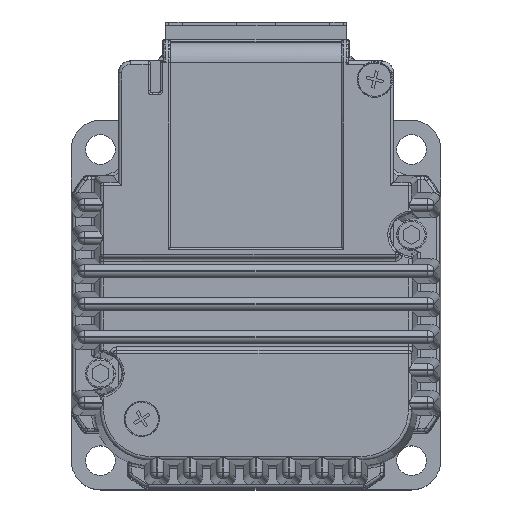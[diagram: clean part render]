
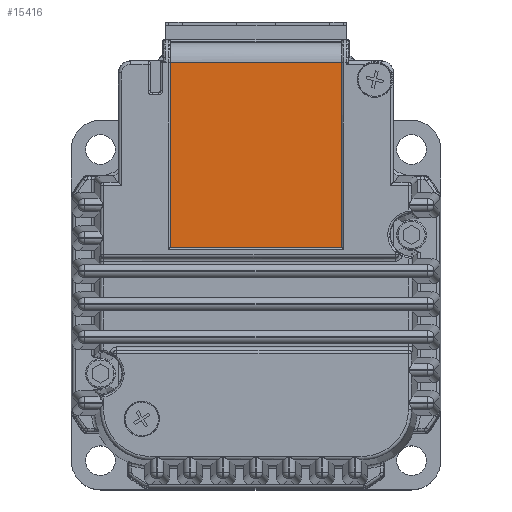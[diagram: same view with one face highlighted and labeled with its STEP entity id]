
A CAD part, top view. The second image highlights one B-rep face of the part: STEP entity #15416.
In plain terms, the highlighted planar face has unit normal (0, 0, 1).
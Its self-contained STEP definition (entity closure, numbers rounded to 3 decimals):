
#607 = LINE ( 'NONE', #28562, #13679 ) ;
#2354 = EDGE_CURVE ( 'NONE', #23744, #41161, #24549, .T. ) ;
#4099 = VECTOR ( 'NONE', #36867, 1000. ) ;
#4586 = EDGE_CURVE ( 'NONE', #34392, #41161, #50933, .T. ) ;
#5066 = DIRECTION ( 'NONE',  ( 0., -1., 0. ) ) ;
#6710 = CARTESIAN_POINT ( 'NONE',  ( 92., 44., 56.4 ) ) ;
#9473 = DIRECTION ( 'NONE',  ( -1., 0., 0. ) ) ;
#12537 = CARTESIAN_POINT ( 'NONE',  ( 66., 15.552, 56.4 ) ) ;
#12581 = CARTESIAN_POINT ( 'NONE',  ( 132.253, 44., 56.4 ) ) ;
#13679 = VECTOR ( 'NONE', #5066, 1000. ) ;
#15416 = ADVANCED_FACE ( 'NONE', ( #45324 ), #36645, .F. ) ;
#17575 = ORIENTED_EDGE ( 'NONE', *, *, #42537, .T. ) ;
#21242 = VERTEX_POINT ( 'NONE', #46439 ) ;
#21852 = CARTESIAN_POINT ( 'NONE',  ( 66., 15.552, 56.4 ) ) ;
#22903 = CARTESIAN_POINT ( 'NONE',  ( 132.253, 43.552, 56.4 ) ) ;
#23154 = LINE ( 'NONE', #22903, #25610 ) ;
#23237 = EDGE_LOOP ( 'NONE', ( #51292, #17575, #23715, #49180 ) ) ;
#23715 = ORIENTED_EDGE ( 'NONE', *, *, #39054, .T. ) ;
#23744 = VERTEX_POINT ( 'NONE', #21852 ) ;
#24549 = LINE ( 'NONE', #12537, #4099 ) ;
#25152 = AXIS2_PLACEMENT_3D ( 'NONE', #12581, #41387, #9473 ) ;
#25610 = VECTOR ( 'NONE', #30749, 1000. ) ;
#28562 = CARTESIAN_POINT ( 'NONE',  ( 66., 44., 56.4 ) ) ;
#30190 = VECTOR ( 'NONE', #42529, 1000. ) ;
#30749 = DIRECTION ( 'NONE',  ( -1., 0., 0. ) ) ;
#31645 = CARTESIAN_POINT ( 'NONE',  ( 92., 43.552, 56.4 ) ) ;
#33748 = CARTESIAN_POINT ( 'NONE',  ( 92., 15.552, 56.4 ) ) ;
#34392 = VERTEX_POINT ( 'NONE', #31645 ) ;
#36645 = PLANE ( 'NONE',  #25152 ) ;
#36867 = DIRECTION ( 'NONE',  ( 1., 0., 0. ) ) ;
#39054 = EDGE_CURVE ( 'NONE', #21242, #23744, #607, .T. ) ;
#41161 = VERTEX_POINT ( 'NONE', #33748 ) ;
#41387 = DIRECTION ( 'NONE',  ( 0., 0., -1. ) ) ;
#42529 = DIRECTION ( 'NONE',  ( 0., -1., 0. ) ) ;
#42537 = EDGE_CURVE ( 'NONE', #34392, #21242, #23154, .T. ) ;
#45324 = FACE_OUTER_BOUND ( 'NONE', #23237, .T. ) ;
#46439 = CARTESIAN_POINT ( 'NONE',  ( 66., 43.552, 56.4 ) ) ;
#49180 = ORIENTED_EDGE ( 'NONE', *, *, #2354, .T. ) ;
#50933 = LINE ( 'NONE', #6710, #30190 ) ;
#51292 = ORIENTED_EDGE ( 'NONE', *, *, #4586, .F. ) ;
